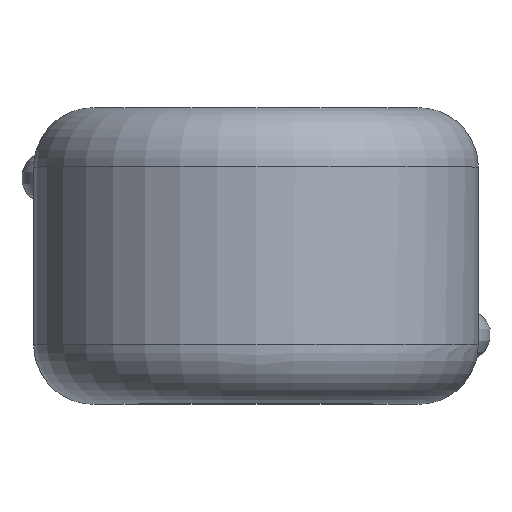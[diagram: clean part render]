
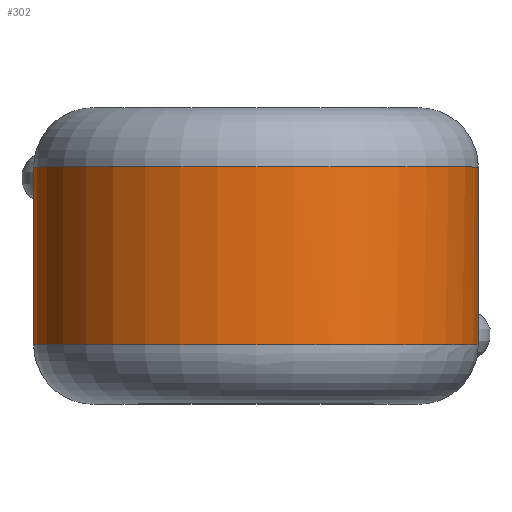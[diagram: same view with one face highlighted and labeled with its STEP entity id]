
A CAD part, top view. The second image highlights one B-rep face of the part: STEP entity #302.
In plain terms, the highlighted cylindrical face has radius 3.75 mm (diameter 7.5 mm), a full revolution.
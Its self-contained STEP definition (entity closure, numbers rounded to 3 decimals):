
#24=B_SPLINE_CURVE_WITH_KNOTS('',3,(#1050,#1051,#1052,#1053,#1054,#1055,
#1056,#1057,#1058,#1059),.UNSPECIFIED.,.F.,.F.,(4,1,1,1,1,1,1,4),(-0.216,
-0.186,-0.155,-0.124,-0.093,
-0.062,-0.031,0.),.UNSPECIFIED.);
#26=B_SPLINE_CURVE_WITH_KNOTS('',3,(#1127,#1128,#1129,#1130,#1131,#1132,
#1133,#1134,#1135,#1136),.UNSPECIFIED.,.F.,.F.,(4,1,1,1,1,1,1,4),(-0.216,
-0.186,-0.155,-0.124,-0.093,
-0.062,-0.031,0.),.UNSPECIFIED.);
#72=FACE_OUTER_BOUND('',#92,.T.);
#92=EDGE_LOOP('',(#241,#242,#243,#244,#245,#246,#247,#248,#249,#250));
#105=LINE('',#1121,#108);
#108=VECTOR('',#407,3.75);
#120=CIRCLE('',#347,3.75);
#121=CIRCLE('',#348,3.75);
#122=CIRCLE('',#349,3.75);
#123=CIRCLE('',#351,3.75);
#124=CIRCLE('',#352,3.75);
#125=CIRCLE('',#353,3.75);
#143=VERTEX_POINT('',#1046);
#144=VERTEX_POINT('',#1048);
#147=VERTEX_POINT('',#1113);
#148=VERTEX_POINT('',#1116);
#149=VERTEX_POINT('',#1120);
#150=VERTEX_POINT('',#1122);
#151=VERTEX_POINT('',#1124);
#152=VERTEX_POINT('',#1126);
#176=EDGE_CURVE('',#143,#144,#24,.T.);
#181=EDGE_CURVE('',#144,#147,#120,.T.);
#182=EDGE_CURVE('',#148,#143,#121,.T.);
#183=EDGE_CURVE('',#147,#148,#122,.T.);
#184=EDGE_CURVE('',#148,#149,#105,.T.);
#185=EDGE_CURVE('',#149,#150,#123,.T.);
#186=EDGE_CURVE('',#150,#151,#124,.T.);
#187=EDGE_CURVE('',#151,#152,#26,.T.);
#188=EDGE_CURVE('',#152,#149,#125,.T.);
#241=ORIENTED_EDGE('',*,*,#176,.T.);
#242=ORIENTED_EDGE('',*,*,#181,.T.);
#243=ORIENTED_EDGE('',*,*,#183,.T.);
#244=ORIENTED_EDGE('',*,*,#184,.T.);
#245=ORIENTED_EDGE('',*,*,#185,.T.);
#246=ORIENTED_EDGE('',*,*,#186,.T.);
#247=ORIENTED_EDGE('',*,*,#187,.T.);
#248=ORIENTED_EDGE('',*,*,#188,.T.);
#249=ORIENTED_EDGE('',*,*,#184,.F.);
#250=ORIENTED_EDGE('',*,*,#182,.T.);
#292=CYLINDRICAL_SURFACE('',#350,3.75);
#302=ADVANCED_FACE('',(#72),#292,.T.);
#347=AXIS2_PLACEMENT_3D('',#1115,#399,#400);
#348=AXIS2_PLACEMENT_3D('',#1117,#401,#402);
#349=AXIS2_PLACEMENT_3D('',#1118,#403,#404);
#350=AXIS2_PLACEMENT_3D('',#1119,#405,#406);
#351=AXIS2_PLACEMENT_3D('',#1123,#408,#409);
#352=AXIS2_PLACEMENT_3D('',#1125,#410,#411);
#353=AXIS2_PLACEMENT_3D('',#1137,#412,#413);
#399=DIRECTION('center_axis',(0.,-1.,0.));
#400=DIRECTION('ref_axis',(-1.,0.,0.));
#401=DIRECTION('center_axis',(0.,-1.,0.));
#402=DIRECTION('ref_axis',(-1.,0.,0.));
#403=DIRECTION('center_axis',(0.,-1.,0.));
#404=DIRECTION('ref_axis',(-1.,0.,0.));
#405=DIRECTION('center_axis',(0.,-1.,0.));
#406=DIRECTION('ref_axis',(1.,0.,0.));
#407=DIRECTION('',(0.,-1.,0.));
#408=DIRECTION('center_axis',(0.,1.,0.));
#409=DIRECTION('ref_axis',(-1.,0.,0.));
#410=DIRECTION('center_axis',(0.,1.,0.));
#411=DIRECTION('ref_axis',(-1.,0.,0.));
#412=DIRECTION('center_axis',(0.,1.,0.));
#413=DIRECTION('ref_axis',(-1.,0.,0.));
#1046=CARTESIAN_POINT('',(-3.003,1.5,-2.246));
#1048=CARTESIAN_POINT('',(-2.251,1.5,-2.999));
#1050=CARTESIAN_POINT('Ctrl Pts',(-3.003,1.5,-2.246));
#1051=CARTESIAN_POINT('Ctrl Pts',(-3.022,1.402,-2.221));
#1052=CARTESIAN_POINT('Ctrl Pts',(-3.027,1.188,-2.214));
#1053=CARTESIAN_POINT('Ctrl Pts',(-2.938,0.907,-2.334));
#1054=CARTESIAN_POINT('Ctrl Pts',(-2.765,0.742,-2.539));
#1055=CARTESIAN_POINT('Ctrl Pts',(-2.544,0.742,-2.761));
#1056=CARTESIAN_POINT('Ctrl Pts',(-2.34,0.907,-2.933));
#1057=CARTESIAN_POINT('Ctrl Pts',(-2.219,1.188,-3.023));
#1058=CARTESIAN_POINT('Ctrl Pts',(-2.226,1.402,-3.018));
#1059=CARTESIAN_POINT('Ctrl Pts',(-2.251,1.5,-2.999));
#1113=CARTESIAN_POINT('',(0.,1.5,-3.75));
#1115=CARTESIAN_POINT('Origin',(0.,1.5,0.));
#1116=CARTESIAN_POINT('',(-3.75,1.5,0.));
#1117=CARTESIAN_POINT('Origin',(0.,1.5,0.));
#1118=CARTESIAN_POINT('Origin',(0.,1.5,0.));
#1119=CARTESIAN_POINT('Origin',(0.,0.,0.));
#1120=CARTESIAN_POINT('',(-3.75,-1.5,0.));
#1121=CARTESIAN_POINT('',(-3.75,0.,0.));
#1122=CARTESIAN_POINT('',(0.,-1.5,3.75));
#1123=CARTESIAN_POINT('Origin',(0.,-1.5,0.));
#1124=CARTESIAN_POINT('',(3.003,-1.5,-2.246));
#1125=CARTESIAN_POINT('Origin',(0.,-1.5,0.));
#1126=CARTESIAN_POINT('',(2.251,-1.5,-2.999));
#1127=CARTESIAN_POINT('Ctrl Pts',(3.003,-1.5,-2.246));
#1128=CARTESIAN_POINT('Ctrl Pts',(3.022,-1.402,-2.221));
#1129=CARTESIAN_POINT('Ctrl Pts',(3.027,-1.188,-2.214));
#1130=CARTESIAN_POINT('Ctrl Pts',(2.938,-0.907,-2.334));
#1131=CARTESIAN_POINT('Ctrl Pts',(2.765,-0.742,-2.539));
#1132=CARTESIAN_POINT('Ctrl Pts',(2.544,-0.742,-2.761));
#1133=CARTESIAN_POINT('Ctrl Pts',(2.34,-0.907,-2.933));
#1134=CARTESIAN_POINT('Ctrl Pts',(2.219,-1.188,-3.023));
#1135=CARTESIAN_POINT('Ctrl Pts',(2.226,-1.402,-3.018));
#1136=CARTESIAN_POINT('Ctrl Pts',(2.251,-1.5,-2.999));
#1137=CARTESIAN_POINT('Origin',(0.,-1.5,0.));
